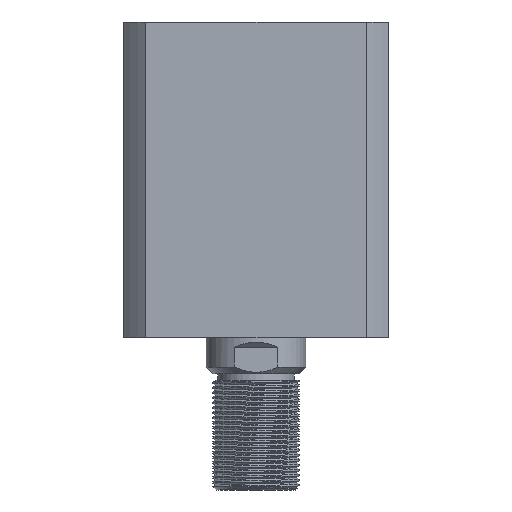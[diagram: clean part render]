
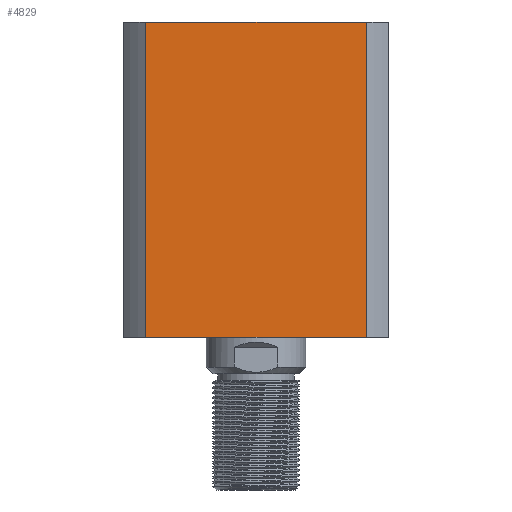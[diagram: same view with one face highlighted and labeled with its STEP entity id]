
A CAD part, left-side view. The second image highlights one B-rep face of the part: STEP entity #4829.
In plain terms, the highlighted planar face has unit normal (-1, 0, 0).
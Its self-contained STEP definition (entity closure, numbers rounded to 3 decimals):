
#914 = DIRECTION ( 'NONE',  ( 1., 0., 0. ) ) ;
#1662 = VERTEX_POINT ( 'NONE', #3742 ) ;
#2128 = PLANE ( 'NONE',  #11055 ) ;
#2629 = ORIENTED_EDGE ( 'NONE', *, *, #16888, .T. ) ;
#3295 = EDGE_CURVE ( 'NONE', #8764, #1662, #11485, .T. ) ;
#3660 = VERTEX_POINT ( 'NONE', #8755 ) ;
#3742 = CARTESIAN_POINT ( 'NONE',  ( -40., -33.226, -47.5 ) ) ;
#4205 = EDGE_CURVE ( 'NONE', #3660, #1662, #4303, .T. ) ;
#4303 = LINE ( 'NONE', #16440, #16854 ) ;
#4763 = VECTOR ( 'NONE', #13602, 1000. ) ;
#4829 = ADVANCED_FACE ( 'NONE', ( #9499 ), #2128, .F. ) ;
#4982 = ORIENTED_EDGE ( 'NONE', *, *, #13401, .F. ) ;
#5552 = DIRECTION ( 'NONE',  ( 0., -1., 0. ) ) ;
#6052 = CARTESIAN_POINT ( 'NONE',  ( -40., 33.226, 47.5 ) ) ;
#6209 = CARTESIAN_POINT ( 'NONE',  ( -40., 33.226, 47.5 ) ) ;
#6390 = LINE ( 'NONE', #6052, #15473 ) ;
#6619 = CARTESIAN_POINT ( 'NONE',  ( -40., 33.226, -47.5 ) ) ;
#7453 = ORIENTED_EDGE ( 'NONE', *, *, #4205, .F. ) ;
#7677 = VERTEX_POINT ( 'NONE', #6209 ) ;
#8038 = CARTESIAN_POINT ( 'NONE',  ( -40., 33.226, 47.5 ) ) ;
#8755 = CARTESIAN_POINT ( 'NONE',  ( -40., -33.226, 47.5 ) ) ;
#8764 = VERTEX_POINT ( 'NONE', #6619 ) ;
#9499 = FACE_OUTER_BOUND ( 'NONE', #13977, .T. ) ;
#10597 = DIRECTION ( 'NONE',  ( 0., 1., 0. ) ) ;
#11055 = AXIS2_PLACEMENT_3D ( 'NONE', #11866, #914, #10597 ) ;
#11195 = LINE ( 'NONE', #8038, #11859 ) ;
#11485 = LINE ( 'NONE', #12366, #4763 ) ;
#11859 = VECTOR ( 'NONE', #5552, 1000. ) ;
#11866 = CARTESIAN_POINT ( 'NONE',  ( -40., 33.226, 47.5 ) ) ;
#12366 = CARTESIAN_POINT ( 'NONE',  ( -40., 33.226, -47.5 ) ) ;
#13401 = EDGE_CURVE ( 'NONE', #7677, #3660, #11195, .T. ) ;
#13602 = DIRECTION ( 'NONE',  ( 0., -1., 0. ) ) ;
#13977 = EDGE_LOOP ( 'NONE', ( #14288, #7453, #4982, #2629 ) ) ;
#14288 = ORIENTED_EDGE ( 'NONE', *, *, #3295, .T. ) ;
#15068 = DIRECTION ( 'NONE',  ( 0., 0., -1. ) ) ;
#15473 = VECTOR ( 'NONE', #17226, 1000. ) ;
#16440 = CARTESIAN_POINT ( 'NONE',  ( -40., -33.226, 47.5 ) ) ;
#16854 = VECTOR ( 'NONE', #15068, 1000. ) ;
#16888 = EDGE_CURVE ( 'NONE', #7677, #8764, #6390, .T. ) ;
#17226 = DIRECTION ( 'NONE',  ( 0., 0., -1. ) ) ;
